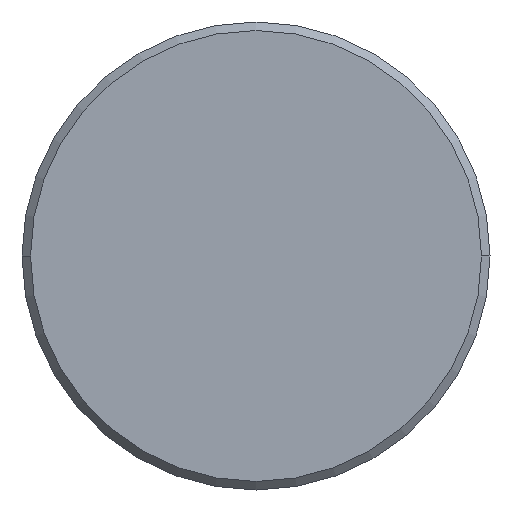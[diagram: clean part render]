
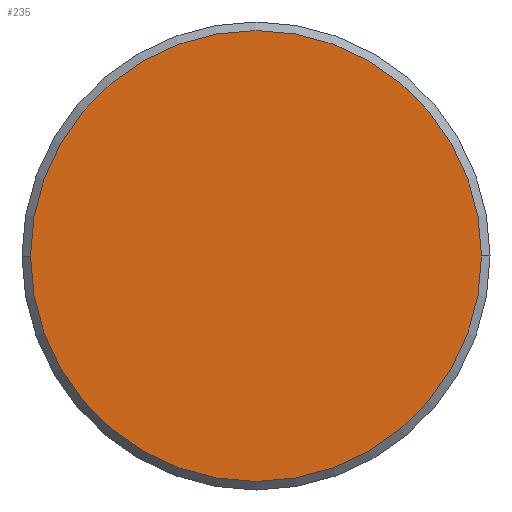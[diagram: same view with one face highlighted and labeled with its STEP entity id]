
A CAD part, left-side view. The second image highlights one B-rep face of the part: STEP entity #235.
In plain terms, the highlighted planar face has unit normal (-1, 0, 0).
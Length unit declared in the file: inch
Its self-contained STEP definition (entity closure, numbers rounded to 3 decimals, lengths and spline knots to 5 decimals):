
#37 = DIRECTION ( 'NONE',  ( -1., 0., 0. ) ) ;
#38 = ORIENTED_EDGE ( 'NONE', *, *, #192, .T. ) ;
#39 = DIRECTION ( 'NONE',  ( 0., -1., 0. ) ) ;
#47 = CARTESIAN_POINT ( 'NONE',  ( 0., 0., 0. ) ) ;
#80 = AXIS2_PLACEMENT_3D ( 'NONE', #319, #37, #39 ) ;
#87 = ORIENTED_EDGE ( 'NONE', *, *, #119, .T. ) ;
#109 = CIRCLE ( 'NONE', #80, 0.10537 ) ;
#114 = VERTEX_POINT ( 'NONE', #115 ) ;
#115 = CARTESIAN_POINT ( 'NONE',  ( 0., -0.10537, 0. ) ) ;
#119 = EDGE_CURVE ( 'NONE', #114, #269, #149, .T. ) ;
#122 = EDGE_LOOP ( 'NONE', ( #38, #87 ) ) ;
#130 = DIRECTION ( 'NONE',  ( 0., -1., 0. ) ) ;
#135 = DIRECTION ( 'NONE',  ( -1., 0., 0. ) ) ;
#149 = CIRCLE ( 'NONE', #297, 0.10537 ) ;
#159 = CARTESIAN_POINT ( 'NONE',  ( 0., 0., 0. ) ) ;
#189 = DIRECTION ( 'NONE',  ( 0., -1., 0. ) ) ;
#192 = EDGE_CURVE ( 'NONE', #269, #114, #109, .T. ) ;
#217 = CARTESIAN_POINT ( 'NONE',  ( 0., 0.10537, 0. ) ) ;
#235 = ADVANCED_FACE ( 'NONE', ( #253 ), #242, .T. ) ;
#242 = PLANE ( 'NONE',  #275 ) ;
#253 = FACE_OUTER_BOUND ( 'NONE', #122, .T. ) ;
#269 = VERTEX_POINT ( 'NONE', #217 ) ;
#275 = AXIS2_PLACEMENT_3D ( 'NONE', #159, #135, #189 ) ;
#297 = AXIS2_PLACEMENT_3D ( 'NONE', #47, #316, #130 ) ;
#316 = DIRECTION ( 'NONE',  ( -1., 0., 0. ) ) ;
#319 = CARTESIAN_POINT ( 'NONE',  ( 0., 0., 0. ) ) ;
